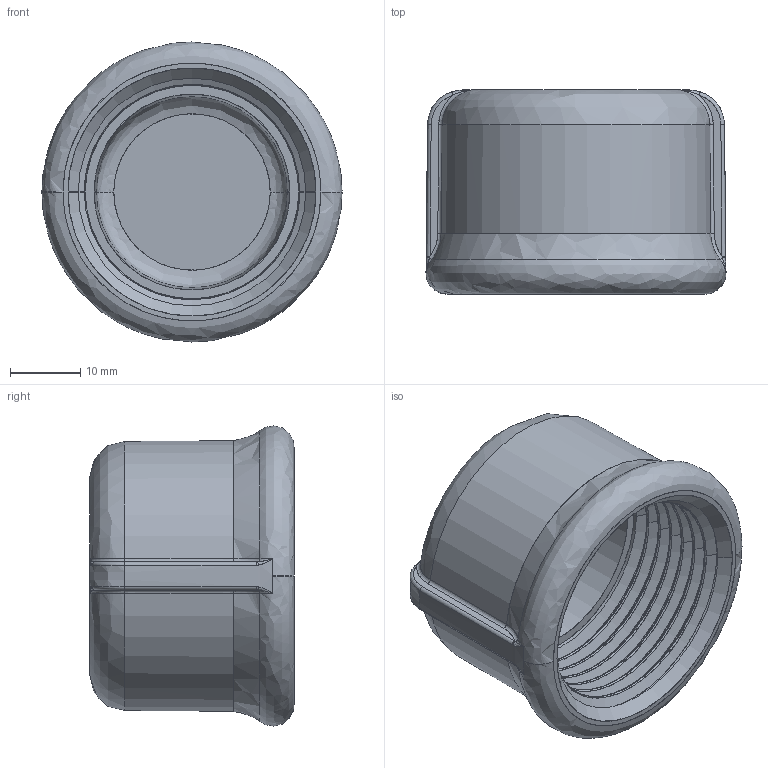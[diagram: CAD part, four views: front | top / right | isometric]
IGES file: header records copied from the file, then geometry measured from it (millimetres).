
Start section: SolidWorks IGES file using analytic representation for surfaces
Global section: file name: C:\Users\Joel Rosa\Desktop\Tubulação\12-42-XXX\12-42-007.IGS; native system: SolidWorks 2011; preprocessor: SolidWorks 2011; author: Joel Rosa; date: 131001.201456; units: millimetre
Bounding box: 42.6 x 29 x 42.6 mm (x, y, z)
Surface area: 9328.2 mm2 (no closed solid volume)
Topology: 0 solids, 0 shells, 211 faces, 2084 edges, 2084 vertices
Faces by surface type: bspline 171, revolution 40
